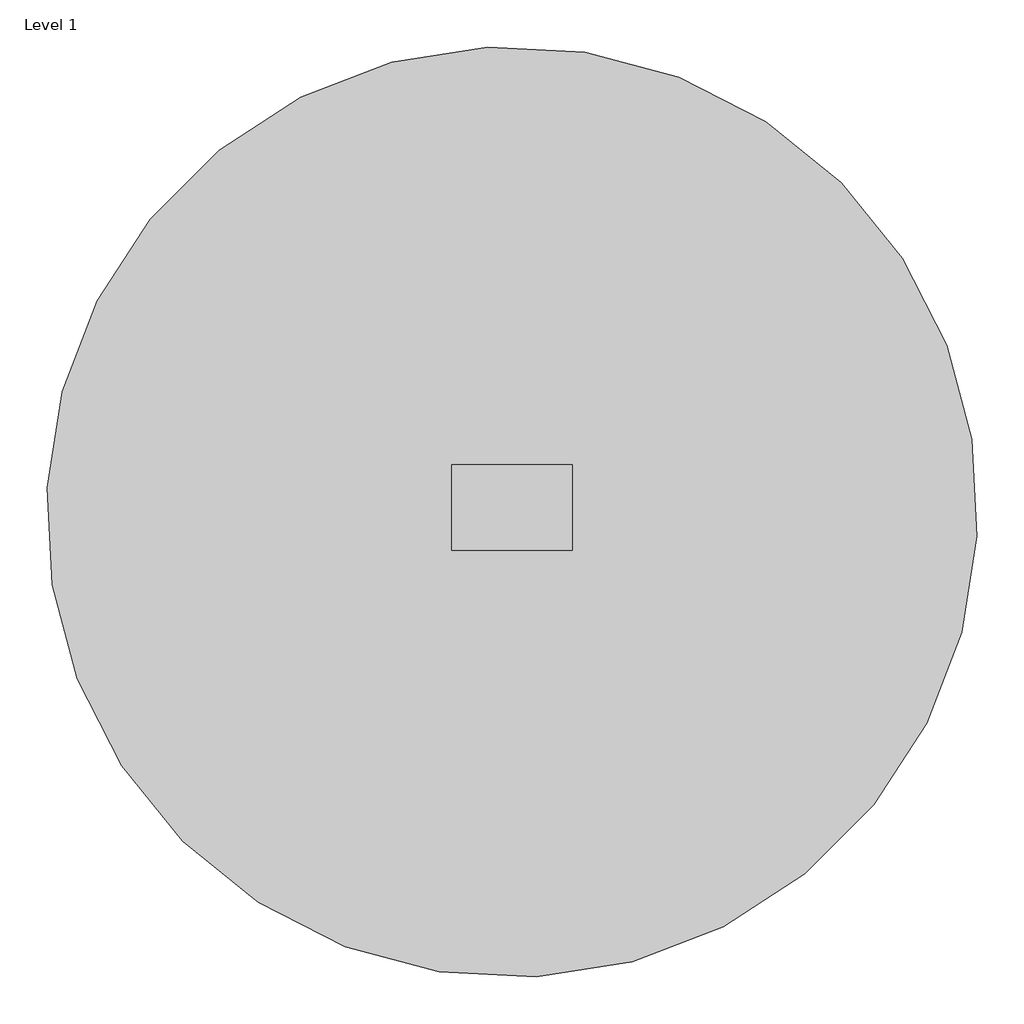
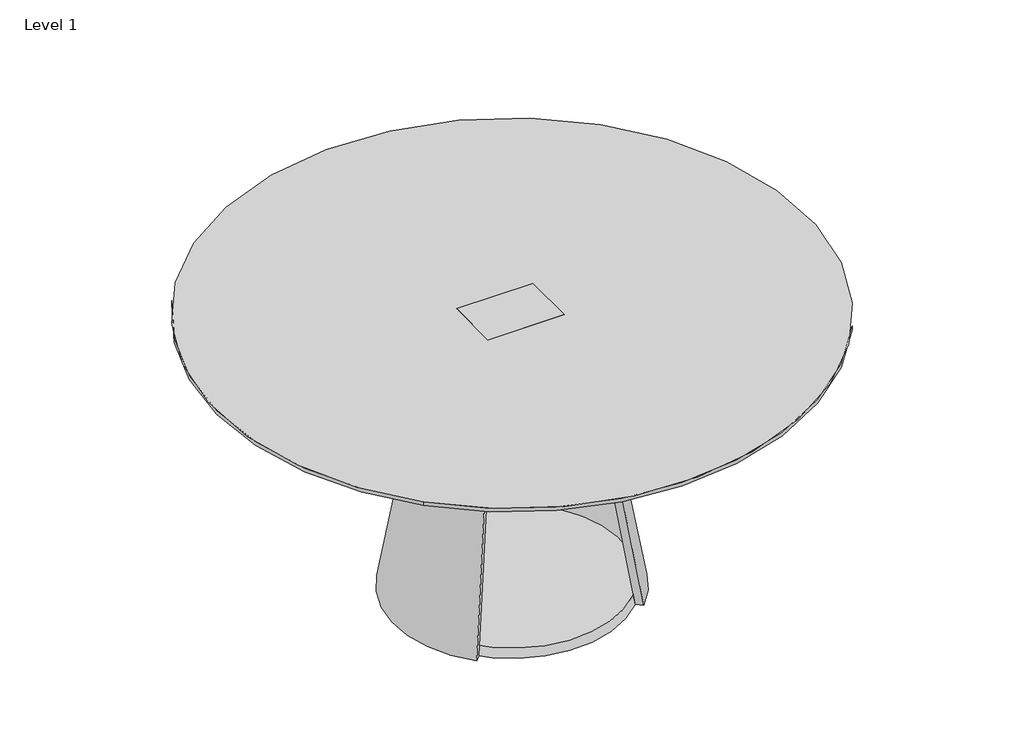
# One storey, incomplete: 6 proxies.
"""IFC4 building model written with IfcOpenShell, lengths in millimetres."""

from ifc_helpers import new_model, si_unit, origin, place, context, project, spatial, transform, mapped, element, save
from components import generic_models_079110c3, generic_models_9387e01b, generic_models_c1717a22, generic_models_7079357f, generic_models_aa6a664b, generic_models_906772f5

model = new_model("IFC4")

# Units and contexts
model_context = context("Model", 3, world=origin())
ifc_project = project(units=[si_unit("LENGTHUNIT", "METRE", prefix="MILLI")], contexts=[model_context])

# Site, building, storey
site = spatial("IfcSite", under=ifc_project)
building = spatial("IfcBuilding", under=site)
storey = spatial("IfcBuildingStorey", under=building, Name="Level 1", Elevation=0.0)

# Proxies
placement = place(None, origin())
generic_models_shape = generic_models_079110c3(model_context)
element("IfcBuildingElementProxy", 1, Name="GRADIENT^TABLE 2_RADIUS BASE-SUB TOP", ObjectType="GRADIENT^TABLE 2_RADIUS BASE-SUB TOP", at=placement, inside=storey, context=model_context, shape_type="MappedRepresentation", body=[
    mapped(generic_models_shape, transform((0.0, 0.0, 0.0), x_axis=(0.7071067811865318, 0.7071067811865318, 0.0), y_axis=(0.0, 0.0, 1.0000000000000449), z_axis=(0.7071067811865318, -0.7071067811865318, 0.0))),
])
generic_models_2_shape = generic_models_9387e01b(model_context)
element("IfcBuildingElementProxy", 2, Name="GRADIENT^TABLE 2_RADIUS BASE-POWER LID", ObjectType="GRADIENT^TABLE 2_RADIUS BASE-POWER LID", at=placement, inside=storey, context=model_context, shape_type="MappedRepresentation", body=[
    mapped(generic_models_2_shape, transform((-98.425, -62.5191511, 723.9), x_axis=(1.0, 0.0, 0.0), y_axis=(0.0, 0.0, 1.0), z_axis=(0.0, -1.0, 0.0))),
])
generic_models_3_shape = generic_models_c1717a22(model_context)
element("IfcBuildingElementProxy", 3, Name="GRADIENT^TABLE 2_RADIUS BASE-BASE TOP", ObjectType="GRADIENT^TABLE 2_RADIUS BASE-BASE TOP", at=placement, inside=storey, context=model_context, shape_type="MappedRepresentation", body=[
    mapped(generic_models_3_shape, transform((0.0, 0.0, 0.0), x_axis=(0.7071067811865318, 0.7071067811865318, 0.0), y_axis=(0.0, 0.0, 1.0000000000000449), z_axis=(0.7071067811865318, -0.7071067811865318, 0.0))),
])
generic_models_4_shape = generic_models_7079357f(model_context)
element("IfcBuildingElementProxy", 4, Name="GRADIENT^TABLE 2_RADIUS BASE-TOP", ObjectType="GRADIENT^TABLE 2_RADIUS BASE-TOP", at=placement, inside=storey, context=model_context, shape_type="MappedRepresentation", body=[
    mapped(generic_models_4_shape, transform((0.0, 0.0, 0.0), x_axis=(0.7071067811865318, 0.7071067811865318, 0.0), y_axis=(0.0, 0.0, 1.0000000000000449), z_axis=(0.7071067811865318, -0.7071067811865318, 0.0))),
])
generic_models_5_shape = generic_models_aa6a664b(model_context)
element("IfcBuildingElementProxy", 5, Name="GRADIENT^TABLE 2_RADIUS BASE-BASE SIDE", ObjectType="GRADIENT^TABLE 2_RADIUS BASE-BASE SIDE", at=placement, inside=storey, context=model_context, shape_type="MappedRepresentation", body=[
    mapped(generic_models_5_shape, transform((0.0, 0.0, 0.0), x_axis=(0.7071067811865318, 0.7071067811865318, 0.0), y_axis=(0.0, 0.0, 1.0000000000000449), z_axis=(0.7071067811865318, -0.7071067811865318, 0.0))),
])
generic_models_6_shape = generic_models_906772f5(model_context)
element("IfcBuildingElementProxy", 6, Name="GRADIENT^TABLE 2_RADIUS BASE-BASE BOTTOM", ObjectType="GRADIENT^TABLE 2_RADIUS BASE-BASE BOTTOM", at=placement, inside=storey, context=model_context, shape_type="MappedRepresentation", body=[
    mapped(generic_models_6_shape, transform((0.0, 0.0, 0.0), x_axis=(0.7071067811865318, 0.7071067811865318, 0.0), y_axis=(0.0, 0.0, 1.0000000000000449), z_axis=(0.7071067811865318, -0.7071067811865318, 0.0))),
])

save(model, "model.ifc")
